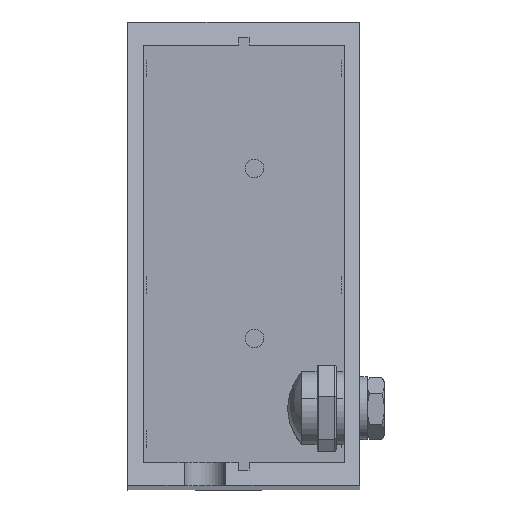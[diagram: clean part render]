
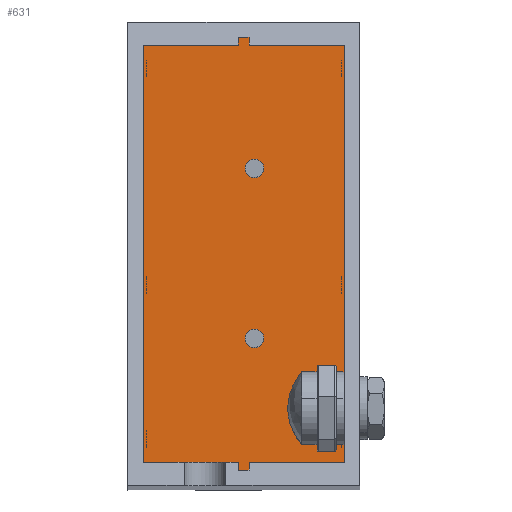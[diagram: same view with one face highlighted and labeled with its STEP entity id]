
A CAD part, top view. The second image highlights one B-rep face of the part: STEP entity #631.
In plain terms, the highlighted planar face has unit normal (0, 0, 1).
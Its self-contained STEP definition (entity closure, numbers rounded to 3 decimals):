
#14 = DIRECTION ( 'NONE',  ( 0., -1., 0. ) ) ;
#101 = ORIENTED_EDGE ( 'NONE', *, *, #8433, .T. ) ;
#194 = CARTESIAN_POINT ( 'NONE',  ( -0.7, -28., 150.5 ) ) ;
#208 = LINE ( 'NONE', #2101, #4660 ) ;
#210 = ORIENTED_EDGE ( 'NONE', *, *, #5895, .T. ) ;
#260 = VERTEX_POINT ( 'NONE', #4605 ) ;
#428 = VERTEX_POINT ( 'NONE', #4841 ) ;
#631 = ADVANCED_FACE ( 'NONE', ( #3998 ), #6066, .F. ) ;
#715 = CARTESIAN_POINT ( 'NONE',  ( -13., 27., 150.5 ) ) ;
#730 = DIRECTION ( 'NONE',  ( 1., 0., 0. ) ) ;
#796 = VECTOR ( 'NONE', #730, 1000. ) ;
#1020 = ORIENTED_EDGE ( 'NONE', *, *, #5093, .T. ) ;
#1088 = CARTESIAN_POINT ( 'NONE',  ( 13., 27., 150.5 ) ) ;
#1267 = CARTESIAN_POINT ( 'NONE',  ( 0.7, 28., 150.5 ) ) ;
#1348 = DIRECTION ( 'NONE',  ( 0., 1., 0. ) ) ;
#1559 = CARTESIAN_POINT ( 'NONE',  ( -13., -27., 150.5 ) ) ;
#1598 = CARTESIAN_POINT ( 'NONE',  ( -0.7, 28., 150.5 ) ) ;
#2029 = EDGE_CURVE ( 'NONE', #7678, #8474, #8564, .T. ) ;
#2075 = ORIENTED_EDGE ( 'NONE', *, *, #2029, .T. ) ;
#2101 = CARTESIAN_POINT ( 'NONE',  ( 0.7, -27., 150.5 ) ) ;
#2222 = DIRECTION ( 'NONE',  ( 0., -1., 0. ) ) ;
#2266 = VECTOR ( 'NONE', #5533, 1000. ) ;
#2412 = DIRECTION ( 'NONE',  ( -1., 0., 0. ) ) ;
#2499 = VECTOR ( 'NONE', #2553, 1000. ) ;
#2509 = VECTOR ( 'NONE', #2412, 1000. ) ;
#2524 = LINE ( 'NONE', #7759, #8666 ) ;
#2553 = DIRECTION ( 'NONE',  ( 0., -1., 0. ) ) ;
#2578 = CARTESIAN_POINT ( 'NONE',  ( -13., -27., 150.5 ) ) ;
#2633 = CARTESIAN_POINT ( 'NONE',  ( 13., 27., 150.5 ) ) ;
#2736 = LINE ( 'NONE', #715, #7008 ) ;
#2847 = ORIENTED_EDGE ( 'NONE', *, *, #6261, .T. ) ;
#2861 = EDGE_CURVE ( 'NONE', #3876, #8586, #208, .T. ) ;
#2872 = VERTEX_POINT ( 'NONE', #6794 ) ;
#3024 = LINE ( 'NONE', #6490, #6798 ) ;
#3453 = EDGE_CURVE ( 'NONE', #428, #5641, #3024, .T. ) ;
#3612 = ORIENTED_EDGE ( 'NONE', *, *, #5059, .T. ) ;
#3658 = VERTEX_POINT ( 'NONE', #1088 ) ;
#3861 = CARTESIAN_POINT ( 'NONE',  ( 0.7, -27., 150.5 ) ) ;
#3869 = CARTESIAN_POINT ( 'NONE',  ( 0.7, -28., 150.5 ) ) ;
#3876 = VERTEX_POINT ( 'NONE', #3861 ) ;
#3998 = FACE_OUTER_BOUND ( 'NONE', #6210, .T. ) ;
#4067 = DIRECTION ( 'NONE',  ( 1., 0., 0. ) ) ;
#4295 = VERTEX_POINT ( 'NONE', #1559 ) ;
#4314 = AXIS2_PLACEMENT_3D ( 'NONE', #8166, #6903, #7466 ) ;
#4394 = CARTESIAN_POINT ( 'NONE',  ( -13., 27., 150.5 ) ) ;
#4503 = CARTESIAN_POINT ( 'NONE',  ( 0.7, -27., 150.5 ) ) ;
#4605 = CARTESIAN_POINT ( 'NONE',  ( -0.7, 27., 150.5 ) ) ;
#4660 = VECTOR ( 'NONE', #4067, 1000. ) ;
#4748 = EDGE_CURVE ( 'NONE', #8418, #4295, #2736, .T. ) ;
#4841 = CARTESIAN_POINT ( 'NONE',  ( 0.7, 27., 150.5 ) ) ;
#5059 = EDGE_CURVE ( 'NONE', #5641, #8183, #6930, .T. ) ;
#5062 = VECTOR ( 'NONE', #1348, 1000. ) ;
#5093 = EDGE_CURVE ( 'NONE', #8586, #3658, #7744, .T. ) ;
#5225 = ORIENTED_EDGE ( 'NONE', *, *, #3453, .T. ) ;
#5295 = LINE ( 'NONE', #2578, #796 ) ;
#5533 = DIRECTION ( 'NONE',  ( -1., 0., 0. ) ) ;
#5551 = EDGE_CURVE ( 'NONE', #3658, #428, #2524, .T. ) ;
#5583 = VECTOR ( 'NONE', #8619, 1000. ) ;
#5641 = VERTEX_POINT ( 'NONE', #1267 ) ;
#5895 = EDGE_CURVE ( 'NONE', #2872, #7678, #6447, .T. ) ;
#5968 = VECTOR ( 'NONE', #6022, 1000. ) ;
#6022 = DIRECTION ( 'NONE',  ( 1., 0., 0. ) ) ;
#6063 = ORIENTED_EDGE ( 'NONE', *, *, #5551, .T. ) ;
#6066 = PLANE ( 'NONE',  #4314 ) ;
#6105 = CARTESIAN_POINT ( 'NONE',  ( 13., -27., 150.5 ) ) ;
#6210 = EDGE_LOOP ( 'NONE', ( #8317, #1020, #6063, #5225, #3612, #101, #7818, #8092, #2847, #210, #2075, #7758 ) ) ;
#6261 = EDGE_CURVE ( 'NONE', #4295, #2872, #5295, .T. ) ;
#6360 = DIRECTION ( 'NONE',  ( 0., 1., 0. ) ) ;
#6447 = LINE ( 'NONE', #7154, #2499 ) ;
#6479 = LINE ( 'NONE', #4503, #5583 ) ;
#6490 = CARTESIAN_POINT ( 'NONE',  ( 0.7, 27., 150.5 ) ) ;
#6686 = VECTOR ( 'NONE', #2222, 1000. ) ;
#6794 = CARTESIAN_POINT ( 'NONE',  ( -0.7, -27., 150.5 ) ) ;
#6798 = VECTOR ( 'NONE', #6360, 1000. ) ;
#6903 = DIRECTION ( 'NONE',  ( 0., 0., -1. ) ) ;
#6930 = LINE ( 'NONE', #6971, #2266 ) ;
#6964 = CARTESIAN_POINT ( 'NONE',  ( -13., 27., 150.5 ) ) ;
#6971 = CARTESIAN_POINT ( 'NONE',  ( 0.7, 28., 150.5 ) ) ;
#7008 = VECTOR ( 'NONE', #14, 1000. ) ;
#7089 = LINE ( 'NONE', #1598, #6686 ) ;
#7120 = DIRECTION ( 'NONE',  ( -1., 0., 0. ) ) ;
#7154 = CARTESIAN_POINT ( 'NONE',  ( -0.7, -28., 150.5 ) ) ;
#7466 = DIRECTION ( 'NONE',  ( -1., 0., 0. ) ) ;
#7537 = CARTESIAN_POINT ( 'NONE',  ( 0.7, -28., 150.5 ) ) ;
#7678 = VERTEX_POINT ( 'NONE', #194 ) ;
#7744 = LINE ( 'NONE', #2633, #5062 ) ;
#7758 = ORIENTED_EDGE ( 'NONE', *, *, #8247, .T. ) ;
#7759 = CARTESIAN_POINT ( 'NONE',  ( 0.7, 27., 150.5 ) ) ;
#7818 = ORIENTED_EDGE ( 'NONE', *, *, #8089, .T. ) ;
#8089 = EDGE_CURVE ( 'NONE', #260, #8418, #8191, .T. ) ;
#8092 = ORIENTED_EDGE ( 'NONE', *, *, #4748, .T. ) ;
#8166 = CARTESIAN_POINT ( 'NONE',  ( 13., -27., 150.5 ) ) ;
#8183 = VERTEX_POINT ( 'NONE', #8277 ) ;
#8191 = LINE ( 'NONE', #6964, #2509 ) ;
#8247 = EDGE_CURVE ( 'NONE', #8474, #3876, #6479, .T. ) ;
#8277 = CARTESIAN_POINT ( 'NONE',  ( -0.7, 28., 150.5 ) ) ;
#8317 = ORIENTED_EDGE ( 'NONE', *, *, #2861, .T. ) ;
#8418 = VERTEX_POINT ( 'NONE', #4394 ) ;
#8433 = EDGE_CURVE ( 'NONE', #8183, #260, #7089, .T. ) ;
#8474 = VERTEX_POINT ( 'NONE', #3869 ) ;
#8564 = LINE ( 'NONE', #7537, #5968 ) ;
#8586 = VERTEX_POINT ( 'NONE', #6105 ) ;
#8619 = DIRECTION ( 'NONE',  ( 0., 1., 0. ) ) ;
#8666 = VECTOR ( 'NONE', #7120, 1000. ) ;
